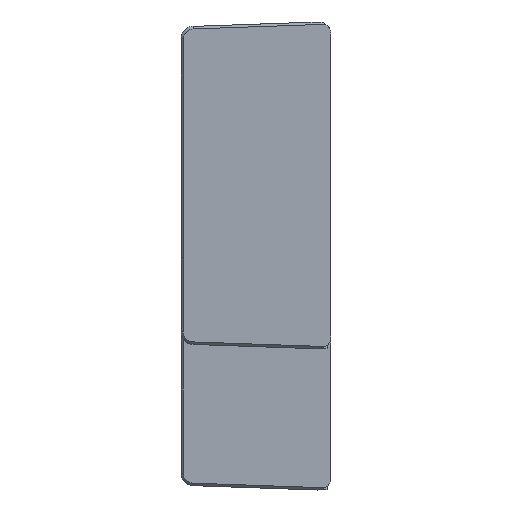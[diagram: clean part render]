
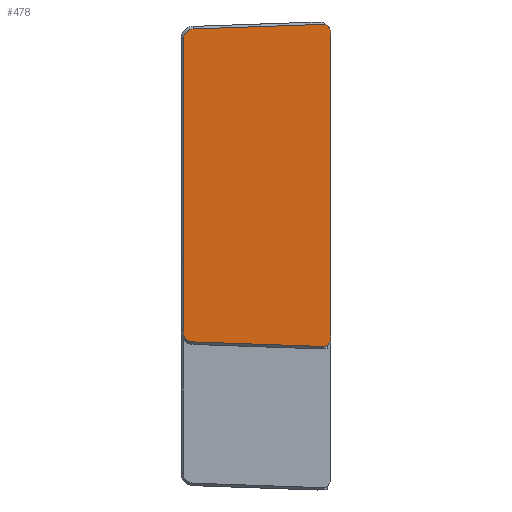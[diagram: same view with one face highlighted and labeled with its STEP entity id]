
A CAD part, left-side view. The second image highlights one B-rep face of the part: STEP entity #478.
In plain terms, the highlighted planar face has unit normal (-0.999, 0.035, 0).
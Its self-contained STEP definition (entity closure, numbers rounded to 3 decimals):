
#215=B_SPLINE_CURVE_WITH_KNOTS('',3,(#14493,#14494,#14495,#14496,#14497,
#14498),.UNSPECIFIED.,.F.,.F.,(4,2,4),(0.,0.5,1.),.UNSPECIFIED.);
#216=B_SPLINE_CURVE_WITH_KNOTS('',3,(#14503,#14504,#14505,#14506,#14507,
#14508),.UNSPECIFIED.,.F.,.F.,(4,2,4),(0.,0.5,1.),.UNSPECIFIED.);
#306=ELLIPSE('',#10875,5.003,5.);
#307=ELLIPSE('',#10876,5.003,5.);
#478=ADVANCED_FACE('',(#1481),#1025,.T.);
#1025=PLANE('',#10877);
#1481=FACE_OUTER_BOUND('',#2017,.T.);
#2017=EDGE_LOOP('',(#2727,#2728,#2729,#2730,#2731,#2732,#2733,#2734,#2735,
#2736));
#2727=ORIENTED_EDGE('',*,*,#6803,.T.);
#2728=ORIENTED_EDGE('',*,*,#6804,.T.);
#2729=ORIENTED_EDGE('',*,*,#6805,.T.);
#2730=ORIENTED_EDGE('',*,*,#6806,.T.);
#2731=ORIENTED_EDGE('',*,*,#6807,.T.);
#2732=ORIENTED_EDGE('',*,*,#6808,.T.);
#2733=ORIENTED_EDGE('',*,*,#6809,.T.);
#2734=ORIENTED_EDGE('',*,*,#6759,.T.);
#2735=ORIENTED_EDGE('',*,*,#6810,.T.);
#2736=ORIENTED_EDGE('',*,*,#6811,.T.);
#5758=VERTEX_POINT('',#14389);
#5759=VERTEX_POINT('',#14390);
#5795=VERTEX_POINT('',#14483);
#5796=VERTEX_POINT('',#14484);
#5797=VERTEX_POINT('',#14486);
#5798=VERTEX_POINT('',#14488);
#5799=VERTEX_POINT('',#14490);
#5800=VERTEX_POINT('',#14492);
#5801=VERTEX_POINT('',#14499);
#5802=VERTEX_POINT('',#14502);
#6759=EDGE_CURVE('',#5758,#5759,#8298,.T.);
#6803=EDGE_CURVE('',#5795,#5796,#8330,.T.);
#6804=EDGE_CURVE('',#5796,#5797,#306,.T.);
#6805=EDGE_CURVE('',#5797,#5798,#8331,.T.);
#6806=EDGE_CURVE('',#5798,#5799,#307,.T.);
#6807=EDGE_CURVE('',#5799,#5800,#8332,.T.);
#6808=EDGE_CURVE('',#5800,#5801,#215,.T.);
#6809=EDGE_CURVE('',#5801,#5758,#8333,.T.);
#6810=EDGE_CURVE('',#5759,#5802,#8334,.T.);
#6811=EDGE_CURVE('',#5802,#5795,#216,.T.);
#8298=LINE('',#14388,#9618);
#8330=LINE('',#14482,#9650);
#8331=LINE('',#14487,#9651);
#8332=LINE('',#14491,#9652);
#8333=LINE('',#14500,#9653);
#8334=LINE('',#14501,#9654);
#9618=VECTOR('',#11630,1.);
#9650=VECTOR('',#11700,1.);
#9651=VECTOR('',#11703,1.);
#9652=VECTOR('',#11706,1.);
#9653=VECTOR('',#11707,1.);
#9654=VECTOR('',#11708,1.);
#10875=AXIS2_PLACEMENT_3D('',#14485,#11701,#11702);
#10876=AXIS2_PLACEMENT_3D('',#14489,#11704,#11705);
#10877=AXIS2_PLACEMENT_3D('',#14509,#11709,#11710);
#11630=DIRECTION('',(0.035,0.999,0.));
#11700=DIRECTION('',(-0.035,-0.999,-0.035));
#11701=DIRECTION('',(-0.999,0.035,0.));
#11702=DIRECTION('',(0.035,0.999,0.));
#11703=DIRECTION('',(0.,0.,1.));
#11704=DIRECTION('',(-0.999,0.035,0.));
#11705=DIRECTION('',(-0.035,-0.999,0.));
#11706=DIRECTION('',(0.035,0.999,-0.035));
#11707=DIRECTION('',(0.,0.,-1.));
#11708=DIRECTION('',(0.,0.,-1.));
#11709=DIRECTION('',(-0.999,0.035,0.));
#11710=DIRECTION('',(-0.035,-0.999,0.));
#14388=CARTESIAN_POINT('',(416.241,208.747,27.499));
#14389=CARTESIAN_POINT('',(416.206,207.748,27.499));
#14390=CARTESIAN_POINT('',(416.208,207.781,27.499));
#14482=CARTESIAN_POINT('',(416.246,208.883,-6.023));
#14483=CARTESIAN_POINT('',(416.073,203.922,-6.197));
#14484=CARTESIAN_POINT('',(414.227,151.073,-8.042));
#14485=CARTESIAN_POINT('',(414.321,153.747,-3.817));
#14486=CARTESIAN_POINT('',(414.146,148.747,-3.817));
#14487=CARTESIAN_POINT('',(414.146,148.747,46.89));
#14488=CARTESIAN_POINT('',(414.146,148.747,116.801));
#14489=CARTESIAN_POINT('',(414.321,153.747,116.801));
#14490=CARTESIAN_POINT('',(414.22,150.856,120.88));
#14491=CARTESIAN_POINT('',(415.892,198.747,119.208));
#14492=CARTESIAN_POINT('',(416.073,203.922,119.027));
#14493=CARTESIAN_POINT('',(416.073,203.922,119.027));
#14494=CARTESIAN_POINT('',(416.107,204.901,118.993));
#14495=CARTESIAN_POINT('',(416.14,205.839,118.594));
#14496=CARTESIAN_POINT('',(416.189,207.247,117.236));
#14497=CARTESIAN_POINT('',(416.204,207.678,116.316));
#14498=CARTESIAN_POINT('',(416.206,207.747,115.335));
#14499=CARTESIAN_POINT('',(416.206,207.748,115.335));
#14500=CARTESIAN_POINT('',(416.206,207.748,27.499));
#14501=CARTESIAN_POINT('',(416.208,207.781,-58.7));
#14502=CARTESIAN_POINT('',(416.208,207.781,-2.2));
#14503=CARTESIAN_POINT('',(416.208,207.781,-2.2));
#14504=CARTESIAN_POINT('',(416.208,207.781,-3.236));
#14505=CARTESIAN_POINT('',(416.194,207.378,-4.233));
#14506=CARTESIAN_POINT('',(416.143,205.939,-5.723));
#14507=CARTESIAN_POINT('',(416.109,204.956,-6.161));
#14508=CARTESIAN_POINT('',(416.073,203.922,-6.197));
#14509=CARTESIAN_POINT('',(416.241,208.747,-58.615));
